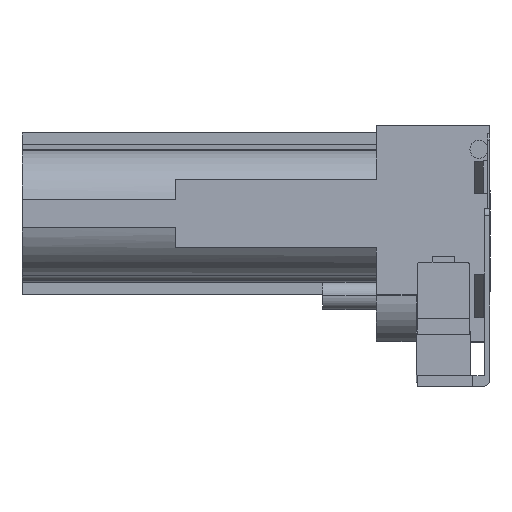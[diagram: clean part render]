
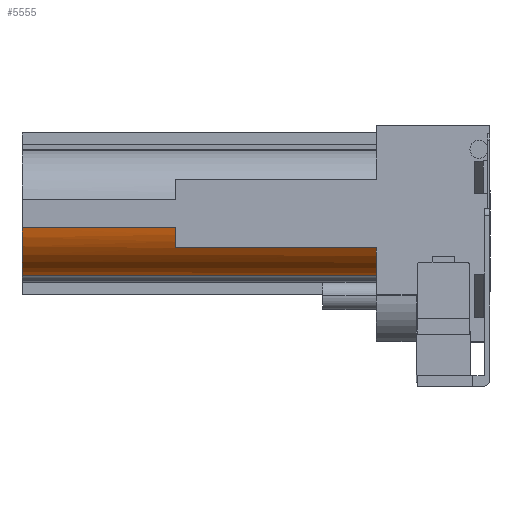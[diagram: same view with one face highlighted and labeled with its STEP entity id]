
A CAD part, front view. The second image highlights one B-rep face of the part: STEP entity #5555.
In plain terms, the highlighted cylindrical face has radius 23 mm (diameter 46 mm), a partial arc.
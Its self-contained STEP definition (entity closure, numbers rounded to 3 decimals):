
#288 = AXIS2_PLACEMENT_3D ( 'NONE', #684, #685, #686 ) ;
#684 = CARTESIAN_POINT ( 'NONE',  ( -41.25, 543.574, 13.073 ) ) ;
#685 = DIRECTION ( 'NONE',  ( -1., 0., 0. ) ) ;
#686 = DIRECTION ( 'NONE',  ( 0., -1., 0. ) ) ;
#907 = CARTESIAN_POINT ( 'NONE',  ( -41.25, 538.355, -9.327 ) ) ;
#956 = CARTESIAN_POINT ( 'NONE',  ( -41.25, 524.202, 0.673 ) ) ;
#958 = CARTESIAN_POINT ( 'NONE',  ( -169.95, 521.134, 8.029 ) ) ;
#996 = CARTESIAN_POINT ( 'NONE',  ( -114.25, 521.134, 8.029 ) ) ;
#1001 = CARTESIAN_POINT ( 'NONE',  ( -114.25, 524.202, 0.673 ) ) ;
#1005 = CARTESIAN_POINT ( 'NONE',  ( -169.95, 538.355, -9.327 ) ) ;
#1969 = FACE_OUTER_BOUND ( 'NONE', #3510, .T. ) ;
#1970 = CYLINDRICAL_SURFACE ( 'NONE', #288, 23. ) ;
#3510 = EDGE_LOOP ( 'NONE', ( #5831, #5832, #5833, #5834, #5835, #5836 ) ) ;
#4151 = LINE ( 'NONE', #5921, #4152 ) ;
#4152 = VECTOR ( 'NONE', #5920, 1000. ) ;
#4153 = LINE ( 'NONE', #5903, #4155 ) ;
#4154 = CIRCLE ( 'NONE', #5141, 23. ) ;
#4155 = VECTOR ( 'NONE', #5902, 1000. ) ;
#4156 = LINE ( 'NONE', #5887, #4158 ) ;
#4157 = CIRCLE ( 'NONE', #5142, 23. ) ;
#4158 = VECTOR ( 'NONE', #5884, 1000. ) ;
#4178 = CIRCLE ( 'NONE', #5145, 23. ) ;
#4624 = EDGE_CURVE ( 'NONE', #6344, #6442, #4151, .T. ) ;
#4625 = EDGE_CURVE ( 'NONE', #6395, #6442, #4154, .T. ) ;
#4626 = EDGE_CURVE ( 'NONE', #6433, #6395, #4153, .T. ) ;
#4627 = EDGE_CURVE ( 'NONE', #6433, #6438, #4157, .T. ) ;
#4628 = EDGE_CURVE ( 'NONE', #6438, #6393, #4156, .T. ) ;
#4639 = EDGE_CURVE ( 'NONE', #6393, #6344, #4178, .T. ) ;
#5141 = AXIS2_PLACEMENT_3D ( 'NONE', #5915, #5911, #5909 ) ;
#5142 = AXIS2_PLACEMENT_3D ( 'NONE', #5896, #5895, #5892 ) ;
#5145 = AXIS2_PLACEMENT_3D ( 'NONE', #5997, #5996, #5995 ) ;
#5555 = ADVANCED_FACE ( 'NONE', ( #1969 ), #1970, .T. ) ;
#5831 = ORIENTED_EDGE ( 'NONE', *, *, #4628, .F. ) ;
#5832 = ORIENTED_EDGE ( 'NONE', *, *, #4627, .F. ) ;
#5833 = ORIENTED_EDGE ( 'NONE', *, *, #4626, .T. ) ;
#5834 = ORIENTED_EDGE ( 'NONE', *, *, #4625, .T. ) ;
#5835 = ORIENTED_EDGE ( 'NONE', *, *, #4624, .F. ) ;
#5836 = ORIENTED_EDGE ( 'NONE', *, *, #4639, .F. ) ;
#5884 = DIRECTION ( 'NONE',  ( 1., 0., 0. ) ) ;
#5887 = CARTESIAN_POINT ( 'NONE',  ( -114.25, 524.202, 0.673 ) ) ;
#5892 = DIRECTION ( 'NONE',  ( 0., -1., 0. ) ) ;
#5895 = DIRECTION ( 'NONE',  ( 1., 0., 0. ) ) ;
#5896 = CARTESIAN_POINT ( 'NONE',  ( -114.25, 543.574, 13.073 ) ) ;
#5902 = DIRECTION ( 'NONE',  ( -1., 0., 0. ) ) ;
#5903 = CARTESIAN_POINT ( 'NONE',  ( -41.25, 521.134, 8.029 ) ) ;
#5909 = DIRECTION ( 'NONE',  ( 0., -1., 0. ) ) ;
#5911 = DIRECTION ( 'NONE',  ( 1., 0., 0. ) ) ;
#5915 = CARTESIAN_POINT ( 'NONE',  ( -169.95, 543.574, 13.073 ) ) ;
#5920 = DIRECTION ( 'NONE',  ( -1., 0., 0. ) ) ;
#5921 = CARTESIAN_POINT ( 'NONE',  ( -41.25, 538.355, -9.327 ) ) ;
#5995 = DIRECTION ( 'NONE',  ( 0., -1., 0. ) ) ;
#5996 = DIRECTION ( 'NONE',  ( 1., 0., 0. ) ) ;
#5997 = CARTESIAN_POINT ( 'NONE',  ( -41.25, 543.574, 13.073 ) ) ;
#6344 = VERTEX_POINT ( 'NONE', #907 ) ;
#6393 = VERTEX_POINT ( 'NONE', #956 ) ;
#6395 = VERTEX_POINT ( 'NONE', #958 ) ;
#6433 = VERTEX_POINT ( 'NONE', #996 ) ;
#6438 = VERTEX_POINT ( 'NONE', #1001 ) ;
#6442 = VERTEX_POINT ( 'NONE', #1005 ) ;
